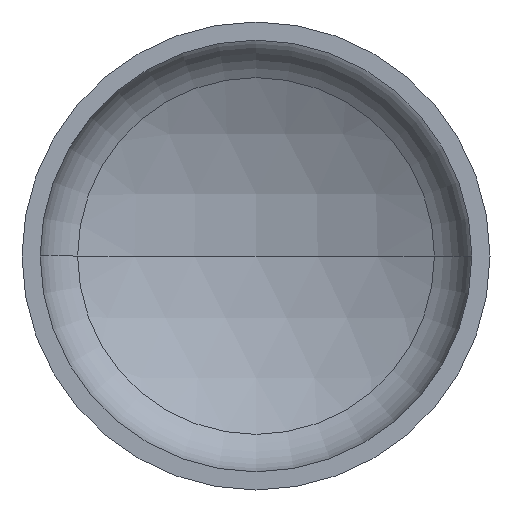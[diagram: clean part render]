
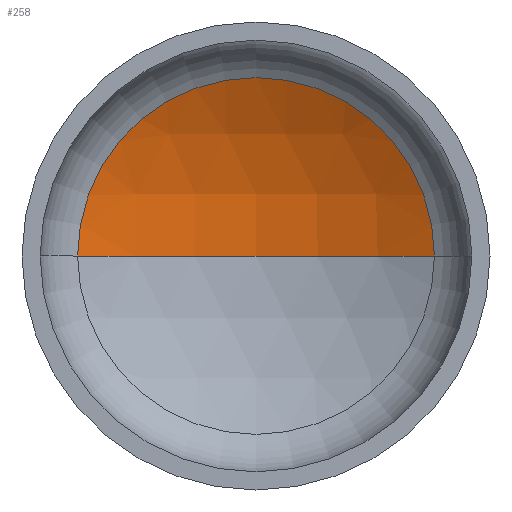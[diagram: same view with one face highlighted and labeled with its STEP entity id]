
A CAD part, front view. The second image highlights one B-rep face of the part: STEP entity #258.
In plain terms, the highlighted spherical face has radius 1440 mm.
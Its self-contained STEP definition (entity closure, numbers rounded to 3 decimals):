
#18 = ORIENTED_EDGE ( 'NONE', *, *, #97, .F. ) ;
#24 = AXIS2_PLACEMENT_3D ( 'NONE', #200, #361, #223 ) ;
#25 = AXIS2_PLACEMENT_3D ( 'NONE', #248, #390, #157 ) ;
#28 = AXIS2_PLACEMENT_3D ( 'NONE', #290, #154, #312 ) ;
#30 = AXIS2_PLACEMENT_3D ( 'NONE', #385, #245, #411 ) ;
#34 = VERTEX_POINT ( 'NONE', #46 ) ;
#46 = CARTESIAN_POINT ( 'NONE',  ( 686.009, 361.789, 0. ) ) ;
#63 = ORIENTED_EDGE ( 'NONE', *, *, #92, .T. ) ;
#81 = VERTEX_POINT ( 'NONE', #104 ) ;
#92 = EDGE_CURVE ( 'NONE', #34, #81, #145, .T. ) ;
#95 = EDGE_CURVE ( 'NONE', #142, #34, #388, .T. ) ;
#97 = EDGE_CURVE ( 'NONE', #142, #81, #263, .T. ) ;
#103 = EDGE_LOOP ( 'NONE', ( #18, #119, #63 ) ) ;
#104 = CARTESIAN_POINT ( 'NONE',  ( -686.009, 361.789, 0. ) ) ;
#119 = ORIENTED_EDGE ( 'NONE', *, *, #95, .T. ) ;
#142 = VERTEX_POINT ( 'NONE', #203 ) ;
#145 = CIRCLE ( 'NONE', #30, 686.009 ) ;
#154 = DIRECTION ( 'NONE',  ( 0., 0., -1. ) ) ;
#157 = DIRECTION ( 'NONE',  ( -1., 0., 0. ) ) ;
#200 = CARTESIAN_POINT ( 'NONE',  ( 0., -904.305, 0. ) ) ;
#203 = CARTESIAN_POINT ( 'NONE',  ( 0., 535.695, 0. ) ) ;
#223 = DIRECTION ( 'NONE',  ( 1., 0., 0. ) ) ;
#245 = DIRECTION ( 'NONE',  ( 0., -1., 0. ) ) ;
#248 = CARTESIAN_POINT ( 'NONE',  ( 0., -904.305, 0. ) ) ;
#258 = ADVANCED_FACE ( 'NONE', ( #304 ), #372, .F. ) ;
#263 = CIRCLE ( 'NONE', #24, 1440. ) ;
#290 = CARTESIAN_POINT ( 'NONE',  ( 0., -904.305, 0. ) ) ;
#304 = FACE_OUTER_BOUND ( 'NONE', #103, .T. ) ;
#312 = DIRECTION ( 'NONE',  ( -1., 0., 0. ) ) ;
#361 = DIRECTION ( 'NONE',  ( 0., 0., 1. ) ) ;
#372 = SPHERICAL_SURFACE ( 'NONE', #25, 1440. ) ;
#385 = CARTESIAN_POINT ( 'NONE',  ( 0., 361.789, 0. ) ) ;
#388 = CIRCLE ( 'NONE', #28, 1440. ) ;
#390 = DIRECTION ( 'NONE',  ( 0., 0., -1. ) ) ;
#411 = DIRECTION ( 'NONE',  ( 1., 0., 0. ) ) ;
